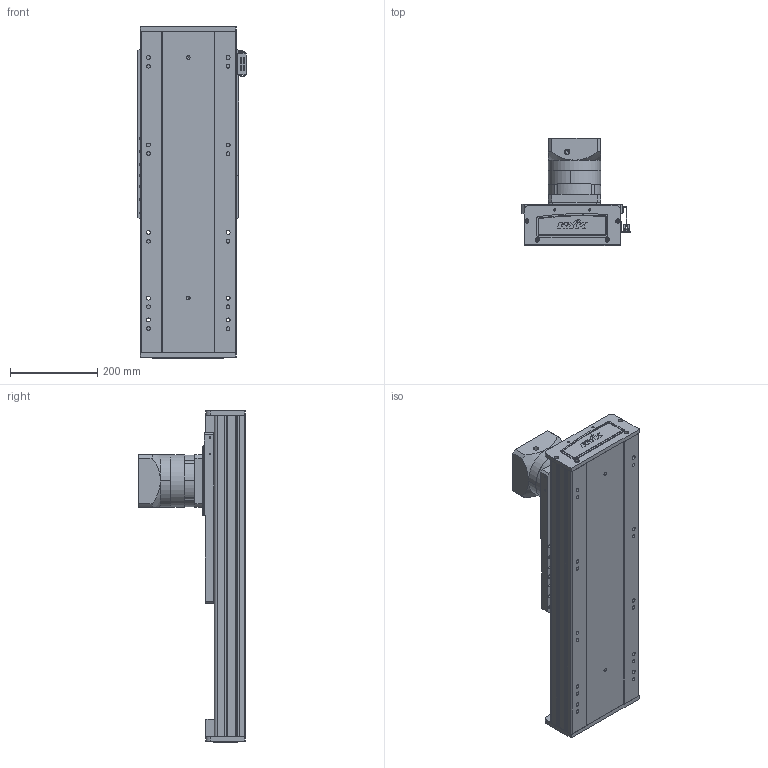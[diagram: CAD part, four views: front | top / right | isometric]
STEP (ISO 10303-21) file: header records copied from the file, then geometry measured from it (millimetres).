
FILE_DESCRIPTION (( 'STEP AP203' ), '1' );
FILE_NAME ('RY220-C-300-UK.SLDASM_0250.step', '2022-08-01T05:58:30', ( '' ), ( '' ), 'SwSTEP 2.0', 'SolidWorks 2016', '' );
FILE_SCHEMA (( 'CONFIG_CONTROL_DESIGN' ));
Length unit declared in the file: millimetre
Products named in the file (10): RY220喘沭賑輸; RY220喘沭俋离覜茼え; RY140直线电机感应器674光电安装座; RY220-齿条模组电机安装板; RY220-C-300-UK.SLDASM_0250; 覜茼ん674; 滅袉蝶輸ㄗG412隅秶ㄘ; RY220菁釱MK-300_0250; PF115L1-S2-22-58-110-145-M8; RY220喘沭綴裔啣
Assembly tree (12 placements, depth 2):
  RY220-C-300-UK.SLDASM_0250
    RY220菁釱MK-300_0250
    RY220喘沭賑輸
    RY220-齿条模组电机安装板
    PF115L1-S2-22-58-110-145-M8
    RY220喘沭綴裔啣  x2
    滅袉蝶輸ㄗG412隅秶ㄘ  x2
    RY140直线电机感应器674光电安装座
    覜茼ん674  x2
    RY220喘沭俋离覜茼え
Bounding box: 247 x 244.5 x 759 mm (x, y, z)
Volume: 8352810.1 mm3; surface area: 1548060.5 mm2
Topology: 18 solids, 26 shells, 1800 faces, 4815 edges, 3108 vertices
Faces by surface type: cylinder 791, plane 751, bspline 162, cone 96
Entity records: 56893 total; most frequent: CARTESIAN_POINT 15900, ORIENTED_EDGE 8338, DIRECTION 8275, EDGE_CURVE 4169, AXIS2_PLACEMENT_3D 3111, VERTEX_POINT 2734, LINE 2053, VECTOR 2053
